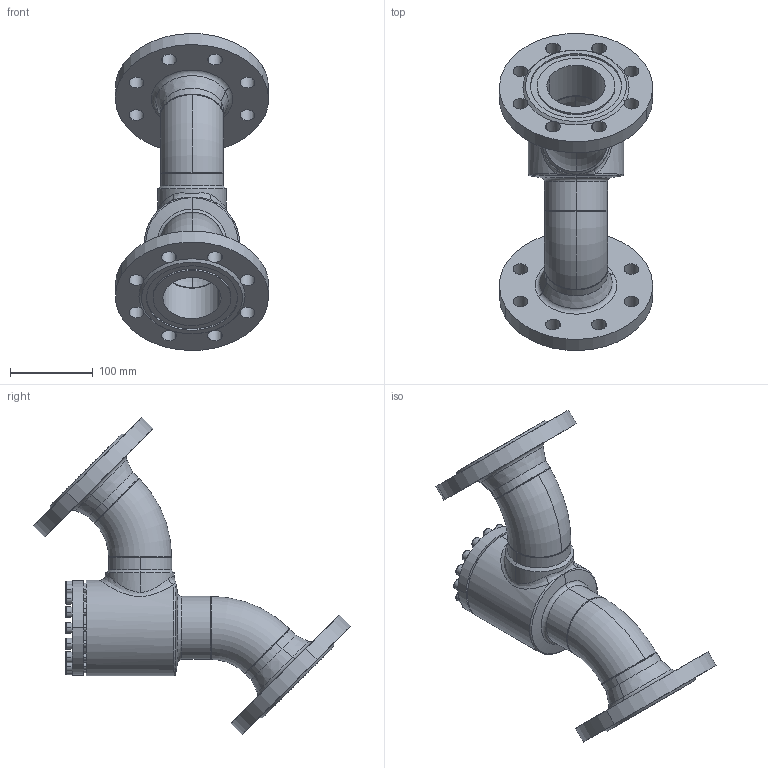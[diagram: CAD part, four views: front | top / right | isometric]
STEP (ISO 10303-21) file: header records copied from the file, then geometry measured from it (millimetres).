
FILE_DESCRIPTION (( 'STEP AP214' ), '1' );
FILE_NAME ('RV28320D17-DN065_DIN-FL-N_PS40.STEP', '2006-04-28T05:22:14', ( 'Herr Grams' ), ( 'AWP GmbH' ), 'SwSTEP 2.0', 'SolidWorks 2002296', '' );
FILE_SCHEMA (( 'AUTOMOTIVE_DESIGN' ));
Length unit declared in the file: millimetre
Products named in the file (13): RV28320D17-DN065_DIN-FL-N_PS40; Gehäuse-kpl16320-DN065_DIN_PS40_Standard; Gehäuse-kpl16300-DN065_R1_Standard; Gehäuse16400-DN065_Standard; Rohrbogen 45°_Rohrbogen-DN065-45°; bead-DN065-3_Standard; bead-DN065-2_Standard; bead-DN065-6_Standard; bead-DN065-7_Standard; Flansch-DIN-Nut_PS40_DIN-Flansch-DN065_PS40-Nut; RV28300K17_Deck+Schr-DN065_Standard; Deckel28300K17-DN65_Standard; Zylinderschraube-DIN912_M 8x 25
Assembly tree (29 placements, depth 4):
  RV28320D17-DN065_DIN-FL-N_PS40
    RV28300K17_Deck+Schr-DN065_Standard
      Zylinderschraube-DIN912_M 8x 25  x16
      Deckel28300K17-DN65_Standard
    Gehäuse-kpl16320-DN065_DIN_PS40_Standard
      bead-DN065-7_Standard
      Flansch-DIN-Nut_PS40_DIN-Flansch-DN065_PS40-Nut  x2
      Gehäuse-kpl16300-DN065_R1_Standard
        bead-DN065-2_Standard
        Rohrbogen 45°_Rohrbogen-DN065-45°  x2
        bead-DN065-3_Standard
        Gehäuse16400-DN065_Standard
      bead-DN065-6_Standard
Bounding box: 184.82 x 382.4 x 382.4 mm (x, y, z)
Volume: 1808611.5 mm3; surface area: 419202.1 mm2
Topology: 26 solids, 26 shells, 488 faces, 1126 edges, 719 vertices
Faces by surface type: plane 196, cylinder 176, cone 50, torus 48, bspline 18
Entity records: 17806 total; most frequent: CARTESIAN_POINT 12843, DIRECTION 972, ORIENTED_EDGE 860, EDGE_CURVE 430, AXIS2_PLACEMENT_3D 423, VERTEX_POINT 277, EDGE_LOOP 241, CIRCLE 232
